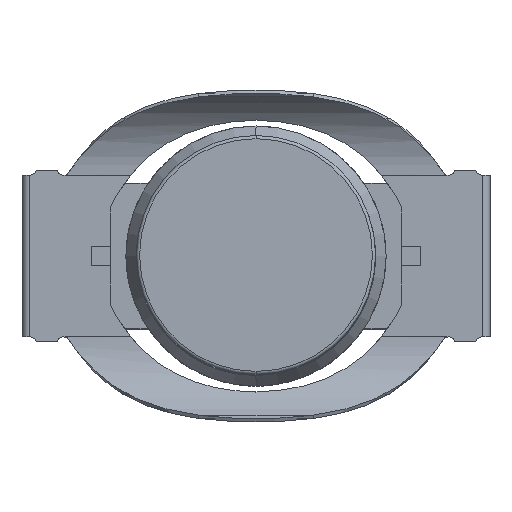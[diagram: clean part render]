
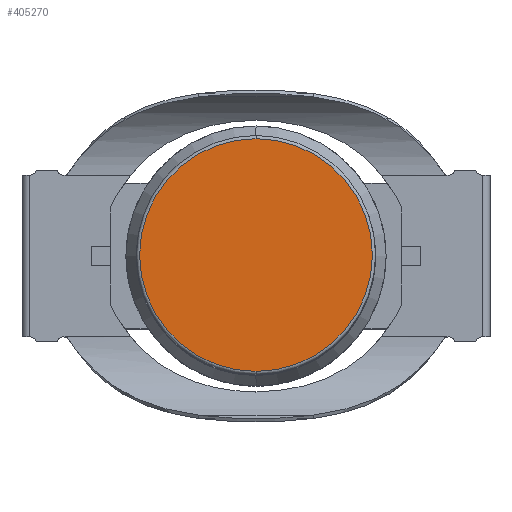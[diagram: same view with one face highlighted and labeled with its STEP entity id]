
A CAD part, top view. The second image highlights one B-rep face of the part: STEP entity #405270.
In plain terms, the highlighted planar face has unit normal (0, 0, 1) as drawn and (0, 0, -1) by its records, which use the part's own axes.
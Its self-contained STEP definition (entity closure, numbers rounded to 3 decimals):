
#404770=CARTESIAN_POINT('',(-3.6,0.,-7.6));
#404780=VERTEX_POINT('',#404770);
#404810=CARTESIAN_POINT('',(0.,0.,-7.6));
#404820=DIRECTION('',(0.,0.,-1.));
#404830=DIRECTION('',(0.,1.,0.));
#404840=AXIS2_PLACEMENT_3D('',#404810,#404820,#404830);
#404850=CIRCLE('',#404840,3.6);
#404860=CARTESIAN_POINT('',(0.,3.6,-7.6));
#404870=VERTEX_POINT('',#404860);
#404880=EDGE_CURVE('',#404780,#404870,#404850,.T.);
#404900=CARTESIAN_POINT('',(3.6,0.,-7.6));
#404910=VERTEX_POINT('',#404900);
#404920=EDGE_CURVE('',#404870,#404910,#404850,.T.);
#405160=CARTESIAN_POINT('',(0.,0.,-7.6));
#405170=DIRECTION('',(-0.,-0.,-1.));
#405180=DIRECTION('',(0.,-1.,0.));
#405190=AXIS2_PLACEMENT_3D('',#405160,#405170,#405180);
#405200=PLANE('',#405190);
#405210=EDGE_CURVE('',#404910,#404780,#404850,.T.);
#405220=ORIENTED_EDGE('',*,*,#405210,.T.);
#405230=ORIENTED_EDGE('',*,*,#404920,.T.);
#405240=ORIENTED_EDGE('',*,*,#404880,.T.);
#405250=EDGE_LOOP('',(#405240,#405230,#405220));
#405260=FACE_OUTER_BOUND('',#405250,.T.);
#405270=ADVANCED_FACE('',(#405260),#405200,.T.);
